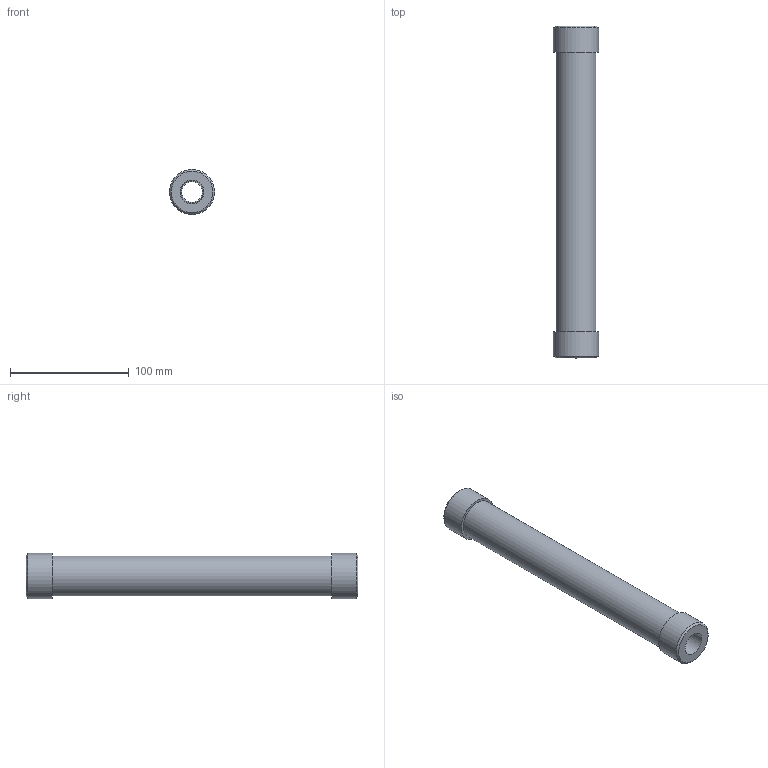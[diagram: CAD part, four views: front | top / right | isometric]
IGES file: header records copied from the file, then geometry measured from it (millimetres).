
Start section: SolidWorks IGES file using analytic representation for surfaces
Global section: file name: F:\Griffco-Valve\Griffco_current-projects\GV_web-files_2015\CAL cylinders\CC0100_P_BSPT.IGS; native system: SolidWorks 2014; preprocessor: SolidWorks 2014; author: Dan; date: 160321.044329; units: inch
Bounding box: 38.1 x 279.4 x 38.1 mm (x, y, z)
Surface area: 54653.2 mm2 (no closed solid volume)
Topology: 0 solids, 0 shells, 18 faces, 47 edges, 37 vertices
Faces by surface type: revolution 10, bspline 8
